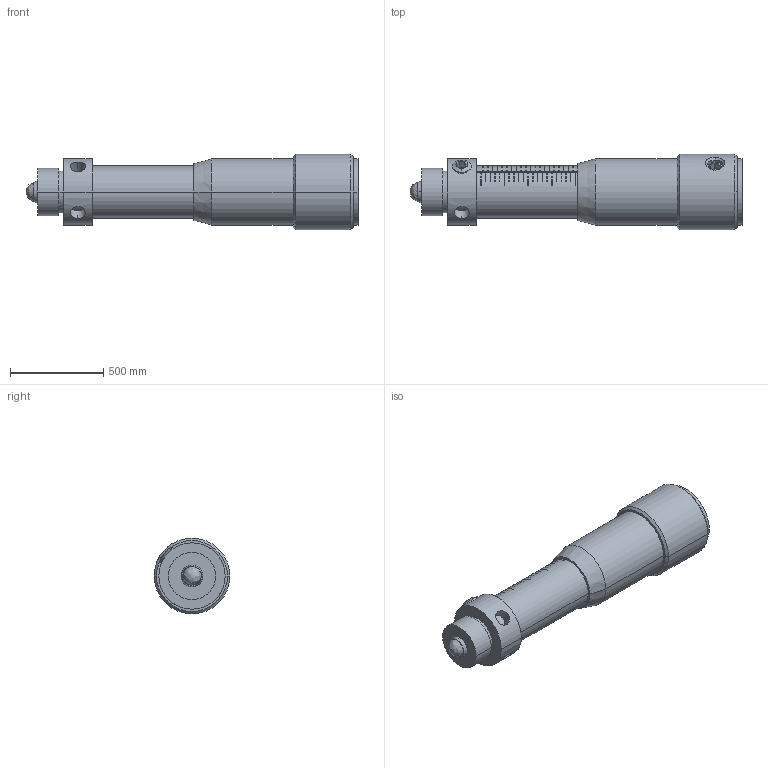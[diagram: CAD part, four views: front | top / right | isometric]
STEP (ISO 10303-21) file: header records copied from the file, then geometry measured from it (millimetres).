
FILE_DESCRIPTION (( 'STEP AP203' ), '1' );
FILE_NAME ('9S75ML-20.STEP', '2011-12-06T13:07:22', ( 'Darius' ), ( '' ), 'SwSTEP 2.0', 'SolidWorks 2003240', '' );
FILE_SCHEMA (( 'CONFIG_CONTROL_DESIGN' ));
Length unit declared in the file: inch
Products named in the file (1): 9S75ML-20
Bounding box: 1782.31 x 406.4 x 406.4 mm (x, y, z)
Volume: 149449146.5 mm3; surface area: 2286372.8 mm2
Topology: 1 solids, 6 shells, 310 faces, 721 edges, 475 vertices
Faces by surface type: plane 195, cylinder 93, cone 18, bspline 4
Entity records: 11868 total; most frequent: CARTESIAN_POINT 4611, DIRECTION 1508, ORIENTED_EDGE 1434, EDGE_CURVE 717, AXIS2_PLACEMENT_3D 543, VERTEX_POINT 475, LINE 422, VECTOR 422
